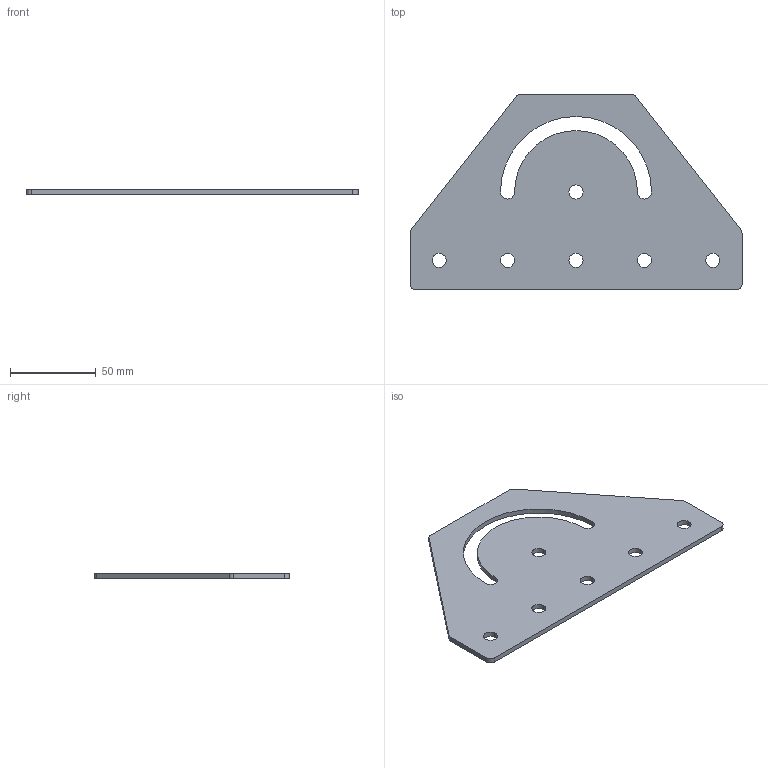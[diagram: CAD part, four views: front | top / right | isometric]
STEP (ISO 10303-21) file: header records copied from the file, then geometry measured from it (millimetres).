
FILE_DESCRIPTION (( 'STEP AP214' ), '1' );
FILE_NAME ('deg180s40.STEP', '2018-03-07T10:12:26', ( '' ), ( '' ), 'SwSTEP 2.0', 'SolidWorks 2014', '' );
FILE_SCHEMA (( 'AUTOMOTIVE_DESIGN' ));
Length unit declared in the file: millimetre
Products named in the file (2): deg180s40
Bounding box: 194 x 114 x 3 mm (x, y, z)
Volume: 47013.6 mm3; surface area: 34228.9 mm2
Topology: 1 solids, 1 shells, 30 faces, 84 edges, 56 vertices
Faces by surface type: cylinder 22, plane 8
Entity records: 1080 total; most frequent: DIRECTION 192, CARTESIAN_POINT 172, ORIENTED_EDGE 168, EDGE_CURVE 84, AXIS2_PLACEMENT_3D 76, VERTEX_POINT 56, EDGE_LOOP 44, CIRCLE 44
